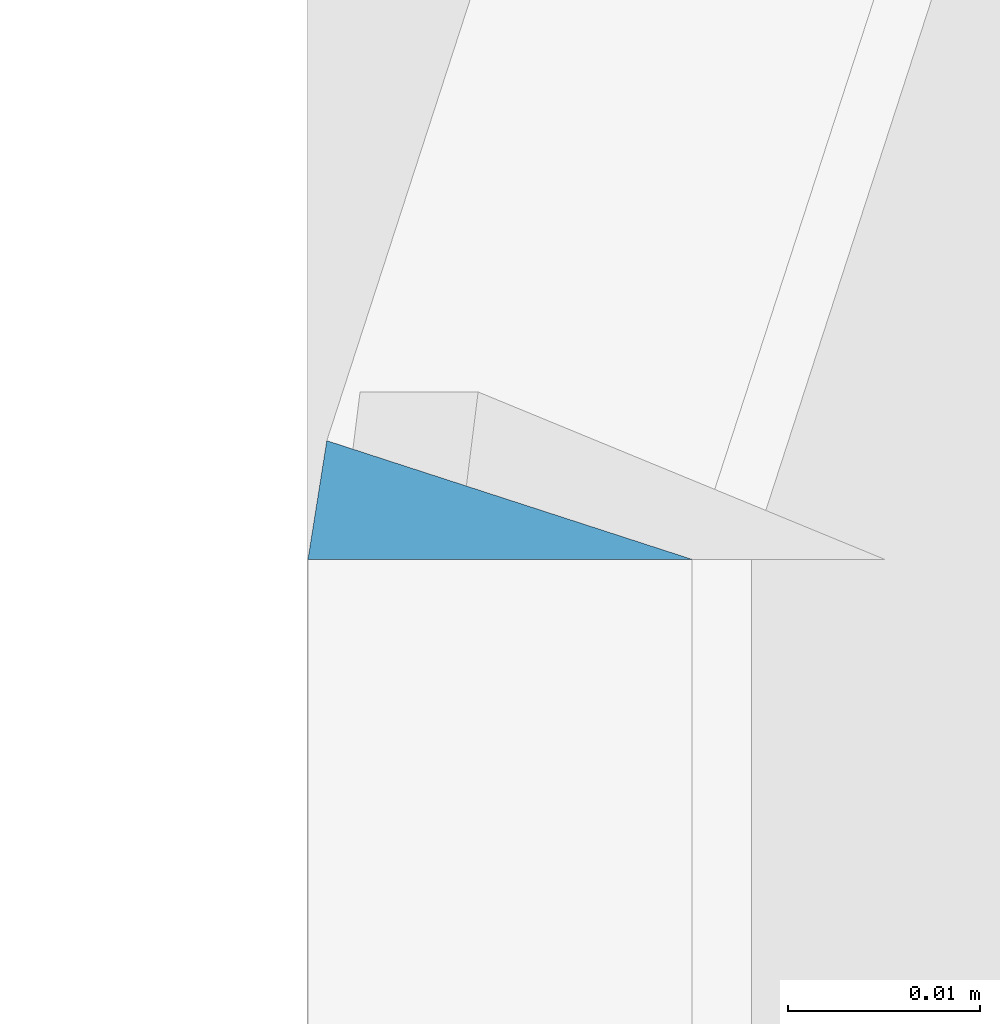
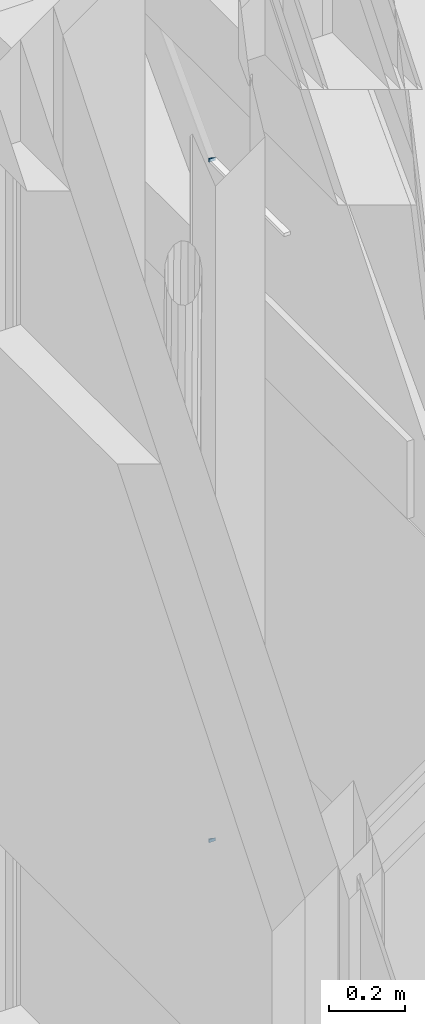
# One storey, part 317 of 583: 2 slabs.
"""IFC2X3 building model written with IfcOpenShell, lengths in metres."""

from ifc_helpers import new_model, entity, si_unit, converted_unit, derived_unit, money_unit, direction, frame, origin_with_axes, place, context, subcontext, project, spatial, faceted_brep, material, type_object, element, save


model = new_model("IFC2X3")

# Units and contexts
model_context = context("Model", 3, precision=1e-05, world=origin_with_axes(), true_north=direction((0.0, 1.0)))
body_context = subcontext(model_context, "Body", "Model", "MODEL_VIEW", scale=1.0)
ifc_project = project(units=[si_unit("LENGTHUNIT", "METRE"), si_unit("AREAUNIT", "SQUARE_METRE"), si_unit("VOLUMEUNIT", "CUBIC_METRE"), si_unit("ABSORBEDDOSEUNIT", "GRAY"), si_unit("AMOUNTOFSUBSTANCEUNIT", "MOLE"), si_unit("DOSEEQUIVALENTUNIT", "SIEVERT"), si_unit("ELECTRICCAPACITANCEUNIT", "FARAD"), si_unit("ELECTRICCHARGEUNIT", "COULOMB"), si_unit("ELECTRICCONDUCTANCEUNIT", "SIEMENS"), si_unit("ELECTRICCURRENTUNIT", "AMPERE"), si_unit("ELECTRICRESISTANCEUNIT", "OHM"), si_unit("ELECTRICVOLTAGEUNIT", "VOLT"), si_unit("ENERGYUNIT", "JOULE"), si_unit("FORCEUNIT", "NEWTON"), si_unit("FREQUENCYUNIT", "HERTZ"), si_unit("ILLUMINANCEUNIT", "LUX"), si_unit("INDUCTANCEUNIT", "HENRY"), si_unit("LUMINOUSFLUXUNIT", "LUMEN"), si_unit("LUMINOUSINTENSITYUNIT", "CANDELA"), si_unit("MAGNETICFLUXDENSITYUNIT", "TESLA"), si_unit("MAGNETICFLUXUNIT", "WEBER"), si_unit("MASSUNIT", "GRAM"), converted_unit("PLANEANGLEUNIT", "degree", entity("IfcReal", 0.0174532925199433), si_unit("PLANEANGLEUNIT", "RADIAN"), dimensions=[0, 0, 0, 0, 0, 0, 0]), si_unit("POWERUNIT", "WATT"), si_unit("PRESSUREUNIT", "PASCAL"), si_unit("RADIOACTIVITYUNIT", "BECQUEREL"), si_unit("SOLIDANGLEUNIT", "STERADIAN"), si_unit("THERMODYNAMICTEMPERATUREUNIT", "KELVIN"), si_unit("TIMEUNIT", "SECOND"), derived_unit("ACCELERATIONUNIT", [(si_unit("LENGTHUNIT", "METRE"), 1), (si_unit("TIMEUNIT", "SECOND"), -2)]), derived_unit("ANGULARVELOCITYUNIT", [(converted_unit("PLANEANGLEUNIT", "degree", entity("IfcReal", 0.0174532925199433), si_unit("PLANEANGLEUNIT", "RADIAN"), dimensions=[0, 0, 0, 0, 0, 0, 0]), 1), (si_unit("TIMEUNIT", "SECOND"), -1)]), derived_unit("CURVATUREUNIT", [(converted_unit("PLANEANGLEUNIT", "degree", entity("IfcReal", 0.0174532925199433), si_unit("PLANEANGLEUNIT", "RADIAN"), dimensions=[0, 0, 0, 0, 0, 0, 0]), 1), (si_unit("LENGTHUNIT", "METRE"), -1)]), derived_unit("DYNAMICVISCOSITYUNIT", [(si_unit("PRESSUREUNIT", "PASCAL"), 1), (si_unit("TIMEUNIT", "SECOND"), 1)]), derived_unit("HEATFLUXDENSITYUNIT", [(si_unit("POWERUNIT", "WATT"), 1), (si_unit("LENGTHUNIT", "METRE"), -2)]), derived_unit("HEATINGVALUEUNIT", [(si_unit("ENERGYUNIT", "JOULE"), 1), (si_unit("MASSUNIT", "GRAM"), -1)]), derived_unit("INTEGERCOUNTRATEUNIT", [(si_unit("TIMEUNIT", "SECOND"), -1)]), derived_unit("IONCONCENTRATIONUNIT", [(si_unit("MASSUNIT", "GRAM"), 1), (si_unit("VOLUMEUNIT", "CUBIC_METRE"), -1)]), derived_unit("ISOTHERMALMOISTURECAPACITYUNIT", [(si_unit("VOLUMEUNIT", "CUBIC_METRE"), 1), (si_unit("MASSUNIT", "GRAM"), -1)]), derived_unit("KINEMATICVISCOSITYUNIT", [(si_unit("AREAUNIT", "SQUARE_METRE"), 1), (si_unit("TIMEUNIT", "SECOND"), -1)]), derived_unit("LINEARFORCEUNIT", [(si_unit("FORCEUNIT", "NEWTON"), 1), (si_unit("LENGTHUNIT", "METRE"), -1)]), derived_unit("LINEARMOMENTUNIT", [(si_unit("FORCEUNIT", "NEWTON"), 1), (si_unit("LENGTHUNIT", "METRE"), -1)]), derived_unit("LINEARSTIFFNESSUNIT", [(si_unit("FORCEUNIT", "NEWTON"), 1), (si_unit("LENGTHUNIT", "METRE"), -1)]), derived_unit("LINEARVELOCITYUNIT", [(si_unit("LENGTHUNIT", "METRE"), 1), (si_unit("TIMEUNIT", "SECOND"), -1)]), derived_unit("LUMINOUSINTENSITYDISTRIBUTIONUNIT", [(si_unit("LUMINOUSINTENSITYUNIT", "CANDELA"), 1), (si_unit("LUMINOUSFLUXUNIT", "LUMEN"), -1)]), derived_unit("MASSDENSITYUNIT", [(si_unit("MASSUNIT", "GRAM"), 1), (si_unit("VOLUMEUNIT", "CUBIC_METRE"), -1)]), derived_unit("MASSFLOWRATEUNIT", [(si_unit("MASSUNIT", "GRAM"), 1), (si_unit("TIMEUNIT", "SECOND"), -1)]), derived_unit("MASSPERLENGTHUNIT", [(si_unit("MASSUNIT", "GRAM"), 1), (si_unit("LENGTHUNIT", "METRE"), -1)]), derived_unit("MODULUSOFELASTICITYUNIT", [(si_unit("FORCEUNIT", "NEWTON"), 1), (si_unit("AREAUNIT", "SQUARE_METRE"), -1)]), derived_unit("MODULUSOFLINEARSUBGRADEREACTIONUNIT", [(si_unit("FORCEUNIT", "NEWTON"), 1), (si_unit("LENGTHUNIT", "METRE"), -2)]), derived_unit("MODULUSOFROTATIONALSUBGRADEREACTIONUNIT", [(si_unit("FORCEUNIT", "NEWTON"), 1), (si_unit("LENGTHUNIT", "METRE"), 1)]), derived_unit("MODULUSOFSUBGRADEREACTIONUNIT", [(si_unit("FORCEUNIT", "NEWTON"), 1), (si_unit("VOLUMEUNIT", "CUBIC_METRE"), -1)]), derived_unit("MOISTUREDIFFUSIVITYUNIT", [(si_unit("VOLUMEUNIT", "CUBIC_METRE"), 1), (si_unit("TIMEUNIT", "SECOND"), -1)]), derived_unit("MOLECULARWEIGHTUNIT", [(si_unit("MASSUNIT", "GRAM"), 1), (si_unit("AMOUNTOFSUBSTANCEUNIT", "MOLE"), -1)]), derived_unit("PLANARFORCEUNIT", [(si_unit("FORCEUNIT", "NEWTON"), 1), (si_unit("LENGTHUNIT", "METRE"), -2)]), derived_unit("ROTATIONALFREQUENCYUNIT", [(si_unit("TIMEUNIT", "SECOND"), -1)]), derived_unit("ROTATIONALMASSUNIT", [(si_unit("MASSUNIT", "GRAM"), 1), (si_unit("LENGTHUNIT", "METRE"), 2)]), derived_unit("ROTATIONALSTIFFNESSUNIT", [(si_unit("FORCEUNIT", "NEWTON"), 1), (si_unit("LENGTHUNIT", "METRE"), 1), (converted_unit("PLANEANGLEUNIT", "degree", entity("IfcReal", 0.0174532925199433), si_unit("PLANEANGLEUNIT", "RADIAN"), dimensions=[0, 0, 0, 0, 0, 0, 0]), -1)]), derived_unit("SECTIONAREAINTEGRALUNIT", [(si_unit("LENGTHUNIT", "METRE"), 5)]), derived_unit("SECTIONMODULUSUNIT", [(si_unit("LENGTHUNIT", "METRE"), 3)]), derived_unit("SHEARMODULUSUNIT", [(si_unit("FORCEUNIT", "NEWTON"), 1), (si_unit("AREAUNIT", "SQUARE_METRE"), -1)]), derived_unit("SOUNDPOWERUNIT", [(si_unit("ENERGYUNIT", "JOULE"), 1), (si_unit("TIMEUNIT", "SECOND"), -1)]), derived_unit("SPECIFICHEATCAPACITYUNIT", [(si_unit("FORCEUNIT", "NEWTON"), 1), (si_unit("MASSUNIT", "GRAM"), -1), (si_unit("THERMODYNAMICTEMPERATUREUNIT", "KELVIN"), -1)]), derived_unit("TEMPERATUREGRADIENTUNIT", [(si_unit("THERMODYNAMICTEMPERATUREUNIT", "KELVIN"), 1), (si_unit("LENGTHUNIT", "METRE"), -1)]), derived_unit("THERMALADMITTANCEUNIT", [(si_unit("POWERUNIT", "WATT"), 1), (si_unit("AREAUNIT", "SQUARE_METRE"), -1), (si_unit("THERMODYNAMICTEMPERATUREUNIT", "KELVIN"), -1)]), derived_unit("THERMALCONDUCTANCEUNIT", [(si_unit("POWERUNIT", "WATT"), 1), (si_unit("LENGTHUNIT", "METRE"), -1), (si_unit("THERMODYNAMICTEMPERATUREUNIT", "KELVIN"), -1)]), derived_unit("THERMALEXPANSIONCOEFFICIENTUNIT", [(si_unit("THERMODYNAMICTEMPERATUREUNIT", "KELVIN"), -1)]), derived_unit("THERMALRESISTANCEUNIT", [(si_unit("AREAUNIT", "SQUARE_METRE"), 1), (si_unit("POWERUNIT", "WATT"), -1)]), derived_unit("THERMALTRANSMITTANCEUNIT", [(si_unit("POWERUNIT", "WATT"), 1), (si_unit("AREAUNIT", "SQUARE_METRE"), -1), (si_unit("THERMODYNAMICTEMPERATUREUNIT", "KELVIN"), -1)]), derived_unit("TORQUEUNIT", [(si_unit("FORCEUNIT", "NEWTON"), 1), (si_unit("LENGTHUNIT", "METRE"), 1)]), derived_unit("VAPORPERMEABILITYUNIT", [(si_unit("MASSUNIT", "GRAM"), 1), (si_unit("TIMEUNIT", "SECOND"), -1)]), derived_unit("VOLUMETRICFLOWRATEUNIT", [(si_unit("VOLUMEUNIT", "CUBIC_METRE"), 1), (si_unit("TIMEUNIT", "SECOND"), -1)]), derived_unit("WARPINGCONSTANTUNIT", [(si_unit("LENGTHUNIT", "METRE"), 6)]), derived_unit("WARPINGMOMENTUNIT", [(si_unit("FORCEUNIT", "NEWTON"), 1), (si_unit("LENGTHUNIT", "METRE"), 2)]), money_unit("GBP")], contexts=[model_context])

# Site, building, storey
site_placement = place(None, origin_with_axes())
site = spatial("IfcSite", under=ifc_project, at=site_placement, Name="Site", CompositionType="ELEMENT")
building_placement = place(site_placement, origin_with_axes())
building = spatial("IfcBuilding", under=site, at=building_placement, Name="Building01", CompositionType="ELEMENT")
storey_placement = place(building_placement, frame((0.0, 0.0, 20.78), z_axis=(0.0, 0.0, 1.0), x_axis=(1.0, 0.0, 0.0)))
storey = spatial("IfcBuildingStorey", under=building, at=storey_placement, Name="RL", CompositionType="ELEMENT", Elevation=20.78)

# Slabs
ifc_material = material(Name="A_BSUK_Roofs")
slab_type = type_object("IfcSlabType", Name="A-FloorsSlabs A_BSUK_Slabs", PredefinedType="FLOOR")
for number, where, z_axis, x_axis, name in (
    (1, (0.500979, 16.280608, -2.904976), (0.0, 1.0, 0.0), (0.0, 0.0, 1.0), "A-FloorsSlabs A_BSUK_Slabs"),
    (2, (0.500979, 16.280608, -0.714976), (0.0, 1.0, 0.0), (0.0, 0.0, 1.0), "A-FloorsSlabs A_BSUK_Slabs"),
):
    element("IfcSlab", number, at=place(storey_placement, frame(where, z_axis=z_axis, x_axis=x_axis)), inside=storey, type_object=slab_type, material=ifc_material, Name=name, ObjectType="A-FloorsSlabs A_BSUK_Slabs", context=body_context, shape_type="Brep", body=[
        faceted_brep([(0.0, -0.000979, -0.00618), (0.01, -0.000979, -0.00618), (0.01, 0.0, 0.0), (0.0, 0.0, 0.0), (0.0, 0.019021, -0.00618), (0.01, 0.019021, -0.00618)], [[[0, 1, 2, 3]], [[4, 5, 1, 0]], [[3, 2, 5, 4]], [[1, 5, 2]], [[3, 4, 0]]]),
    ])

save(model, "model.ifc")
